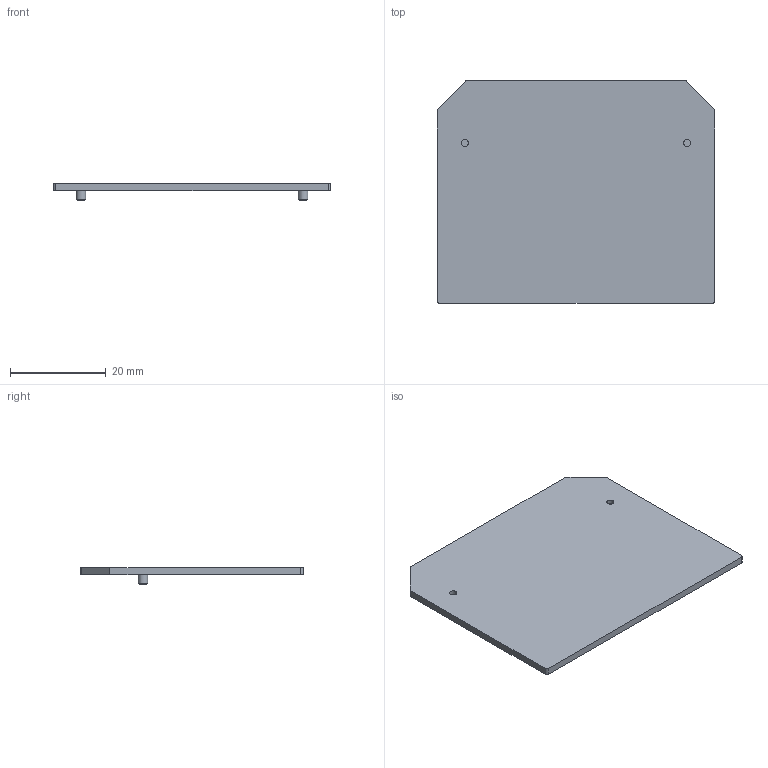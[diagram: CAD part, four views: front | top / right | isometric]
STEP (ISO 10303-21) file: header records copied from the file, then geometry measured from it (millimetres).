
FILE_DESCRIPTION(('Open CASCADE Model'),'2;1');
FILE_NAME('Open CASCADE Shape Model','2022-12-06T17:23:50',('Author'),( 'Open CASCADE'),'Open CASCADE STEP processor 6.5','Open CASCADE 6.5' ,'Unknown');
FILE_SCHEMA(('AUTOMOTIVE_DESIGN { 1 0 10303 214 1 1 1 1 }'));
Length unit declared in the file: millimetre
Products named in the file (30): CADSOFTTOOLS 2; CADSOFTTOOLS 2.1; CADSOFTTOOLS 2.2; CADSOFTTOOLS 2.3; CADSOFTTOOLS 2.4; CADSOFTTOOLS 2.5; CADSOFTTOOLS 2.6; CADSOFTTOOLS 2.7; CADSOFTTOOLS 2.8; CADSOFTTOOLS 2.9; CADSOFTTOOLS 2.10; CADSOFTTOOLS 2.11; CADSOFTTOOLS 2.12; CADSOFTTOOLS 2.13; CADSOFTTOOLS 2.14; CADSOFTTOOLS 2.15; CADSOFTTOOLS 2.16; CADSOFTTOOLS 2.17; CADSOFTTOOLS 2.18; CADSOFTTOOLS 2.19; CADSOFTTOOLS 2.20; CADSOFTTOOLS 2.21; CADSOFTTOOLS 2.22; CADSOFTTOOLS 2.23; CADSOFTTOOLS 2.24; CADSOFTTOOLS 2.25; CADSOFTTOOLS 2.26; CADSOFTTOOLS 2.27; CADSOFTTOOLS 2.28; CADSOFTTOOLS 2.29
Assembly tree (29 placements, depth 2):
  CADSOFTTOOLS 2
    CADSOFTTOOLS 2.1
    CADSOFTTOOLS 2.2
    CADSOFTTOOLS 2.3
    CADSOFTTOOLS 2.4
    CADSOFTTOOLS 2.5
    CADSOFTTOOLS 2.6
    CADSOFTTOOLS 2.7
    CADSOFTTOOLS 2.8
    CADSOFTTOOLS 2.9
    CADSOFTTOOLS 2.10
    CADSOFTTOOLS 2.11
    CADSOFTTOOLS 2.12
    CADSOFTTOOLS 2.13
    CADSOFTTOOLS 2.14
    CADSOFTTOOLS 2.15
    CADSOFTTOOLS 2.16
    CADSOFTTOOLS 2.17
    CADSOFTTOOLS 2.18
    CADSOFTTOOLS 2.19
    CADSOFTTOOLS 2.20
    CADSOFTTOOLS 2.21
    CADSOFTTOOLS 2.22
    CADSOFTTOOLS 2.23
    CADSOFTTOOLS 2.24
    CADSOFTTOOLS 2.25
    CADSOFTTOOLS 2.26
    CADSOFTTOOLS 2.27
    CADSOFTTOOLS 2.28
    CADSOFTTOOLS 2.29
Bounding box: 58 x 46.5 x 3.5 mm (x, y, z)
Surface area: 5657 mm2 (no closed solid volume)
Topology: 0 solids, 29 shells, 29 faces, 114 edges, 108 vertices
Faces by surface type: plane 17, cylinder 10, cone 2
Full cylindrical faces by diameter (mm): 1.5 x2, 2 x2
Entity records: 2684 total; most frequent: CARTESIAN_POINT 559, DIRECTION 350, LINE 128, VECTOR 128, ORIENTED_EDGE 120, PCURVE 120, DEFINITIONAL_REPRESENTATION 120, EDGE_CURVE 114
